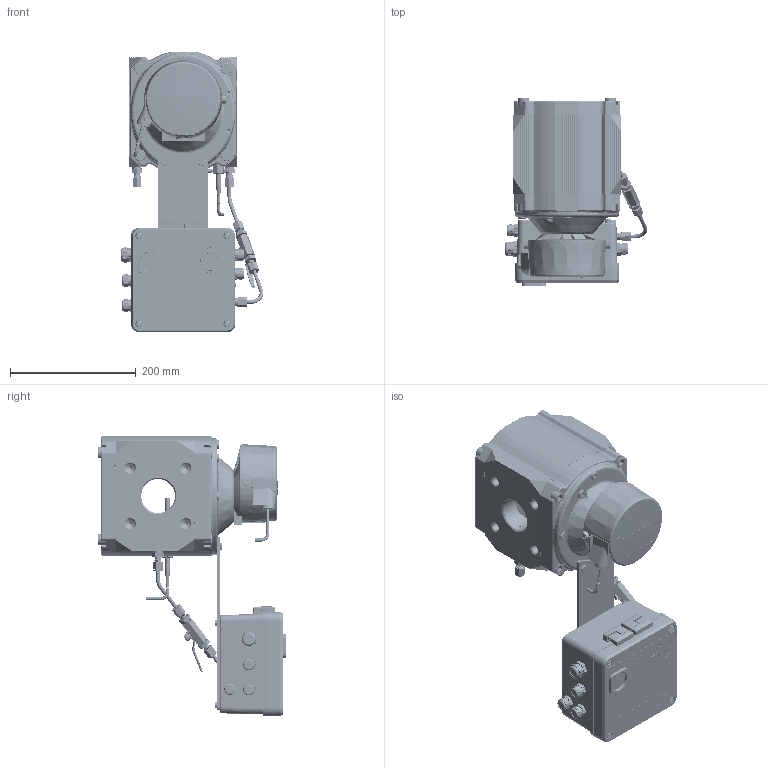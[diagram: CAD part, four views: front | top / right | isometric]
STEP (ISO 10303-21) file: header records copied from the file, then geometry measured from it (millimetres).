
FILE_DESCRIPTION(('STEP AP242'), '1');
FILE_NAME('ÑÃ-ÝÊÐ-Ð-100 ÐÂÃ-À ëåâûé', '', ('UNSPECIFIED'), ('UNSPECIFIED'), 'C3D Converter', 'C3D Toolkit', '');
FILE_SCHEMA(('AP242_MANAGED_MODEL_BASED_3D_ENGINEERING_MIM_LF { 1 0 10303 442 1 1 4 }'));
Length unit declared in the file: millimetre
Bounding box: 227.16 x 299 x 446.5 mm (x, y, z)
Volume: 4196354.1 mm3; surface area: 949700.8 mm2
Topology: 69 solids, 69 shells, 4907 faces, 12835 edges, 8303 vertices
Faces by surface type: plane 1455, cylinder 1331, extrusion 1105, cone 526, bspline 268, torus 188, sphere 34
Full cylindrical faces by diameter (mm): 2 x29, 2.459 x4, 2.5 x8, 3 x2, 3.1 x1, 3.2 x5, 3.242 x7, 3.459 x2, 4 x19, 4.134 x1, 4.2 x6, 4.3 x2, 4.5 x1, 4.917 x15, 5 x17, 5.5 x1, 5.8 x4, 6 x40, 6.2 x8, 7 x6, 8 x3, 8.1 x1, 8.5 x1, 9 x5, 9.264 x4, 10 x12, 10.25 x8, 10.5 x1, 10.598 x2, 10.7 x2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
Entity records: 276570 total; most frequent: CARTESIAN_POINT 126031, ORIENTED_EDGE 24200, DIRECTION 18968, EDGE_CURVE 12100, VERTEX_POINT 8250, AXIS2_PLACEMENT_3D 6462, VECTOR 6044, EDGE_LOOP 6020
